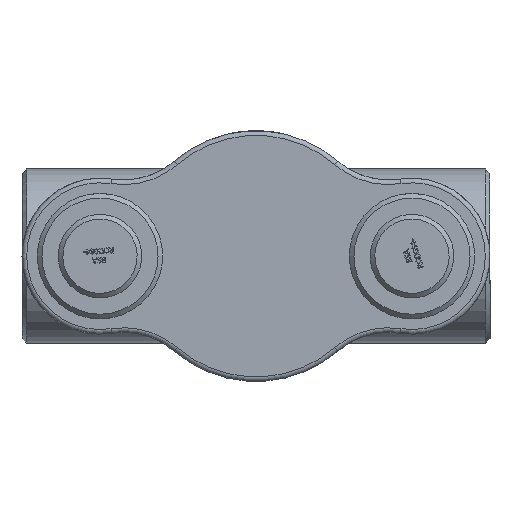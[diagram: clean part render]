
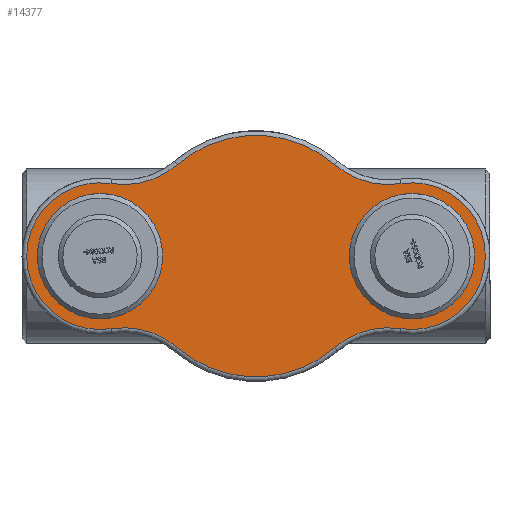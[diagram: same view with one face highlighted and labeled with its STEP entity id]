
A CAD part, front view. The second image highlights one B-rep face of the part: STEP entity #14377.
In plain terms, the highlighted planar face has unit normal (0, -1, 0) as drawn and (0, 0, -1) by its records, which use the part's own axes.
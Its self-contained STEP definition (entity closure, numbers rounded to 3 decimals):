
#3756=PLANE('',#15313);
#4160=FACE_BOUND('',#5119,.T.);
#4161=FACE_BOUND('',#5120,.T.);
#4271=FACE_OUTER_BOUND('',#5118,.T.);
#5118=EDGE_LOOP('',(#9940,#9941,#9942,#9943,#9944,#9945,#9946,#9947));
#5119=EDGE_LOOP('',(#9948));
#5120=EDGE_LOOP('',(#9949));
#6074=CIRCLE('',#15312,52.);
#6075=CIRCLE('',#15314,79.);
#6076=CIRCLE('',#15315,89.);
#6077=CIRCLE('',#15316,130.);
#6078=CIRCLE('',#15317,89.);
#6079=CIRCLE('',#15318,79.);
#6080=CIRCLE('',#15319,89.);
#6081=CIRCLE('',#15320,130.);
#6082=CIRCLE('',#15321,89.);
#6083=CIRCLE('',#15322,52.);
#6258=VERTEX_POINT('',#18731);
#6259=VERTEX_POINT('',#18734);
#6260=VERTEX_POINT('',#18735);
#6261=VERTEX_POINT('',#18737);
#6262=VERTEX_POINT('',#18739);
#6263=VERTEX_POINT('',#18741);
#6264=VERTEX_POINT('',#18743);
#6265=VERTEX_POINT('',#18745);
#6266=VERTEX_POINT('',#18747);
#6267=VERTEX_POINT('',#18750);
#7730=EDGE_CURVE('',#6258,#6258,#6074,.T.);
#7731=EDGE_CURVE('',#6259,#6260,#6075,.T.);
#7732=EDGE_CURVE('',#6261,#6259,#6076,.T.);
#7733=EDGE_CURVE('',#6262,#6261,#6077,.T.);
#7734=EDGE_CURVE('',#6263,#6262,#6078,.T.);
#7735=EDGE_CURVE('',#6264,#6263,#6079,.T.);
#7736=EDGE_CURVE('',#6265,#6264,#6080,.T.);
#7737=EDGE_CURVE('',#6266,#6265,#6081,.T.);
#7738=EDGE_CURVE('',#6260,#6266,#6082,.T.);
#7739=EDGE_CURVE('',#6267,#6267,#6083,.T.);
#9940=ORIENTED_EDGE('',*,*,#7731,.F.);
#9941=ORIENTED_EDGE('',*,*,#7732,.F.);
#9942=ORIENTED_EDGE('',*,*,#7733,.F.);
#9943=ORIENTED_EDGE('',*,*,#7734,.F.);
#9944=ORIENTED_EDGE('',*,*,#7735,.F.);
#9945=ORIENTED_EDGE('',*,*,#7736,.F.);
#9946=ORIENTED_EDGE('',*,*,#7737,.F.);
#9947=ORIENTED_EDGE('',*,*,#7738,.F.);
#9948=ORIENTED_EDGE('',*,*,#7739,.F.);
#9949=ORIENTED_EDGE('',*,*,#7730,.F.);
#14377=ADVANCED_FACE('',(#4271,#4160,#4161),#3756,.F.);
#15312=AXIS2_PLACEMENT_3D('',#18732,#16039,#16040);
#15313=AXIS2_PLACEMENT_3D('',#18733,#16041,#16042);
#15314=AXIS2_PLACEMENT_3D('',#18736,#16043,#16044);
#15315=AXIS2_PLACEMENT_3D('',#18738,#16045,#16046);
#15316=AXIS2_PLACEMENT_3D('',#18740,#16047,#16048);
#15317=AXIS2_PLACEMENT_3D('',#18742,#16049,#16050);
#15318=AXIS2_PLACEMENT_3D('',#18744,#16051,#16052);
#15319=AXIS2_PLACEMENT_3D('',#18746,#16053,#16054);
#15320=AXIS2_PLACEMENT_3D('',#18748,#16055,#16056);
#15321=AXIS2_PLACEMENT_3D('',#18749,#16057,#16058);
#15322=AXIS2_PLACEMENT_3D('',#18751,#16059,#16060);
#16039=DIRECTION('center_axis',(0.,0.,-1.));
#16040=DIRECTION('ref_axis',(1.,0.,0.));
#16041=DIRECTION('center_axis',(0.,0.,1.));
#16042=DIRECTION('ref_axis',(1.,0.,0.));
#16043=DIRECTION('center_axis',(0.,0.,1.));
#16044=DIRECTION('ref_axis',(-1.,0.,0.));
#16045=DIRECTION('center_axis',(0.,0.,-1.));
#16046=DIRECTION('ref_axis',(0.276,-0.961,0.));
#16047=DIRECTION('center_axis',(0.,0.,1.));
#16048=DIRECTION('ref_axis',(0.,1.,0.));
#16049=DIRECTION('center_axis',(0.,0.,-1.));
#16050=DIRECTION('ref_axis',(-0.276,-0.961,0.));
#16051=DIRECTION('center_axis',(0.,0.,1.));
#16052=DIRECTION('ref_axis',(1.,0.,0.));
#16053=DIRECTION('center_axis',(0.,0.,-1.));
#16054=DIRECTION('ref_axis',(-0.276,0.961,0.));
#16055=DIRECTION('center_axis',(0.,0.,1.));
#16056=DIRECTION('ref_axis',(0.,-1.,0.));
#16057=DIRECTION('center_axis',(0.,0.,-1.));
#16058=DIRECTION('ref_axis',(0.276,0.961,0.));
#16059=DIRECTION('center_axis',(0.,0.,-1.));
#16060=DIRECTION('ref_axis',(1.,0.,0.));
#18731=CARTESIAN_POINT('',(116.,0.,0.));
#18732=CARTESIAN_POINT('Origin',(168.,0.,0.));
#18733=CARTESIAN_POINT('Origin',(0.,0.,0.));
#18734=CARTESIAN_POINT('',(-156.122,78.102,0.));
#18735=CARTESIAN_POINT('',(-156.122,-78.102,0.));
#18736=CARTESIAN_POINT('Origin',(-168.,0.,0.));
#18737=CARTESIAN_POINT('',(-84.732,98.592,0.));
#18738=CARTESIAN_POINT('Origin',(-142.741,166.09,0.));
#18739=CARTESIAN_POINT('',(84.732,98.592,0.));
#18740=CARTESIAN_POINT('Origin',(0.,0.,0.));
#18741=CARTESIAN_POINT('',(156.122,78.102,0.));
#18742=CARTESIAN_POINT('Origin',(142.741,166.09,0.));
#18743=CARTESIAN_POINT('',(156.122,-78.102,0.));
#18744=CARTESIAN_POINT('Origin',(168.,0.,0.));
#18745=CARTESIAN_POINT('',(84.732,-98.592,0.));
#18746=CARTESIAN_POINT('Origin',(142.741,-166.09,0.));
#18747=CARTESIAN_POINT('',(-84.732,-98.592,0.));
#18748=CARTESIAN_POINT('Origin',(0.,0.,0.));
#18749=CARTESIAN_POINT('Origin',(-142.741,-166.09,0.));
#18750=CARTESIAN_POINT('',(-220.,0.,0.));
#18751=CARTESIAN_POINT('Origin',(-168.,0.,0.));
